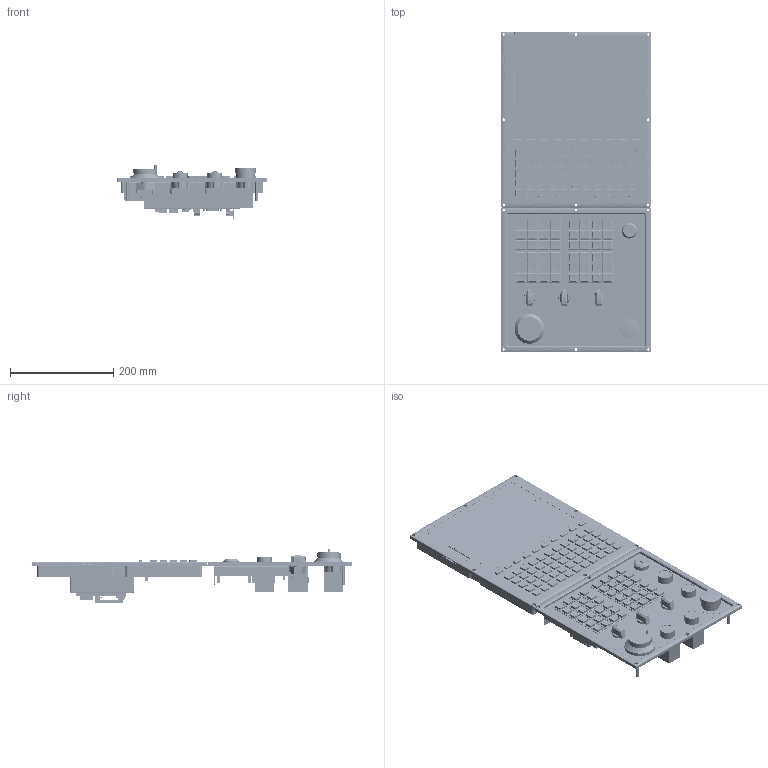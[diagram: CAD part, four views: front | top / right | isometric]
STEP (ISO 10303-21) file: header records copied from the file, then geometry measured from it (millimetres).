
FILE_DESCRIPTION (( 'STEP AP214' ), '1' );
FILE_NAME ('B-10.4车床立式+辅助板开窗尺寸.STEP', '2022-12-27T08:23:51', ( 'admin' ), ( '' ), 'SwSTEP 2.0', 'SolidWorks 2018', '' );
FILE_SCHEMA (( 'AUTOMOTIVE_DESIGN' ));
Length unit declared in the file: millimetre
Products named in the file (1): B-10.4车床立式+辅助板开窗尺寸
Bounding box: 290 x 620 x 105.4 mm (x, y, z)
Volume: 4128523.7 mm3; surface area: 822454.6 mm2
Topology: 2 solids, 347 shells, 13955 faces, 37295 edges, 24127 vertices
Faces by surface type: plane 7822, cylinder 3174, torus 1272, bspline 664, sphere 642, cone 381
Entity records: 476103 total; most frequent: CARTESIAN_POINT 121440, DIRECTION 74926, ORIENTED_EDGE 74574, EDGE_CURVE 37287, AXIS2_PLACEMENT_3D 26638, VERTEX_POINT 24127, LINE 21650, VECTOR 21650
